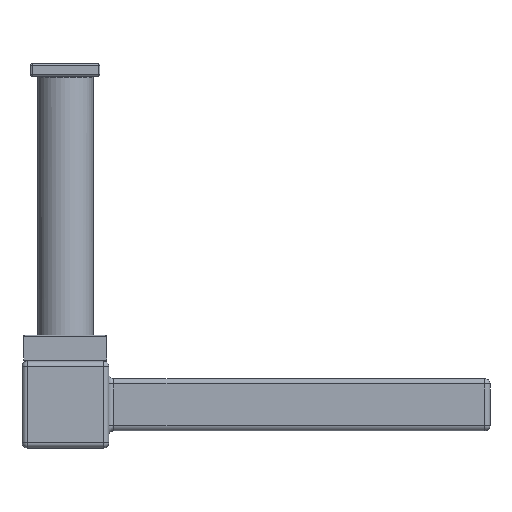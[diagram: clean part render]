
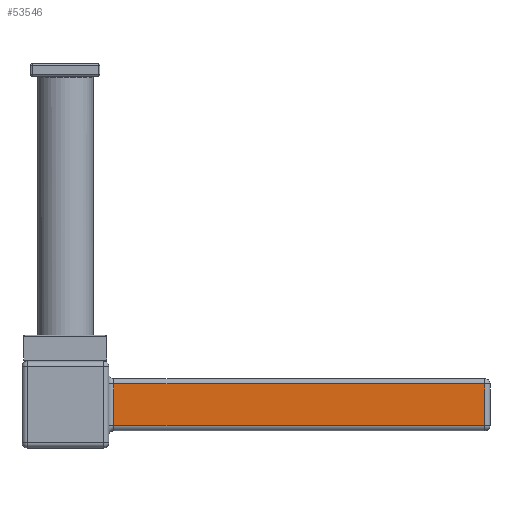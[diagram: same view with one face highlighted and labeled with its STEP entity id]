
A CAD part, left-side view. The second image highlights one B-rep face of the part: STEP entity #53546.
In plain terms, the highlighted planar face has unit normal (-1, 0, 0).
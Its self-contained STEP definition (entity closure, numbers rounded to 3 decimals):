
#53317=CARTESIAN_POINT('Line Origine',(-15.,-135.,-37.)) ;
#53321=CARTESIAN_POINT('Vertex',(-15.,-28.,-37.)) ;
#53323=CARTESIAN_POINT('Vertex',(-15.,-242.,-37.)) ;
#53516=CARTESIAN_POINT('Axis2P3D Location',(-15.,-25.,-40.)) ;
#53521=CARTESIAN_POINT('Line Origine',(-15.,-242.,-25.)) ;
#53525=CARTESIAN_POINT('Vertex',(-15.,-242.,-13.)) ;
#53528=CARTESIAN_POINT('Line Origine',(-15.,-135.,-13.)) ;
#53532=CARTESIAN_POINT('Vertex',(-15.,-28.,-13.)) ;
#53535=CARTESIAN_POINT('Line Origine',(-15.,-28.,-25.)) ;
#53318=DIRECTION('Vector Direction',(0.,-1.,0.)) ;
#53517=DIRECTION('Axis2P3D Direction',(1.,0.,-0.)) ;
#53518=DIRECTION('Axis2P3D XDirection',(0.,0.,1.)) ;
#53522=DIRECTION('Vector Direction',(0.,0.,1.)) ;
#53529=DIRECTION('Vector Direction',(0.,-1.,0.)) ;
#53536=DIRECTION('Vector Direction',(0.,0.,1.)) ;
#53519=AXIS2_PLACEMENT_3D('Plane Axis2P3D',#53516,#53517,#53518) ;
#53541=ORIENTED_EDGE('',*,*,#53527,.F.) ;
#53542=ORIENTED_EDGE('',*,*,#53534,.F.) ;
#53543=ORIENTED_EDGE('',*,*,#53539,.F.) ;
#53544=ORIENTED_EDGE('',*,*,#53325,.T.) ;
#53319=VECTOR('Line Direction',#53318,1.) ;
#53523=VECTOR('Line Direction',#53522,1.) ;
#53530=VECTOR('Line Direction',#53529,1.) ;
#53537=VECTOR('Line Direction',#53536,1.) ;
#53546=ADVANCED_FACE('PartBody',(#53545),#53520,.F.) ;
#53325=EDGE_CURVE('',#53322,#53324,#53320,.T.) ;
#53527=EDGE_CURVE('',#53526,#53324,#53524,.F.) ;
#53534=EDGE_CURVE('',#53533,#53526,#53531,.T.) ;
#53539=EDGE_CURVE('',#53322,#53533,#53538,.T.) ;
#53540=EDGE_LOOP('',(#53541,#53542,#53543,#53544)) ;
#53545=FACE_OUTER_BOUND('',#53540,.T.) ;
#53320=LINE('Line',#53317,#53319) ;
#53524=LINE('Line',#53521,#53523) ;
#53531=LINE('Line',#53528,#53530) ;
#53538=LINE('Line',#53535,#53537) ;
#53520=PLANE('',#53519) ;
#53322=VERTEX_POINT('',#53321) ;
#53324=VERTEX_POINT('',#53323) ;
#53526=VERTEX_POINT('',#53525) ;
#53533=VERTEX_POINT('',#53532) ;
